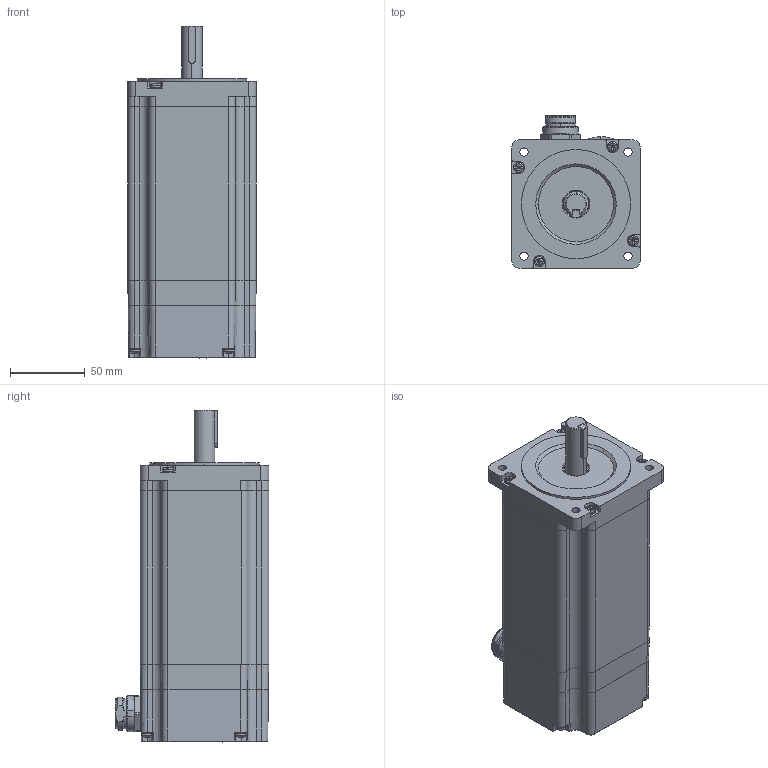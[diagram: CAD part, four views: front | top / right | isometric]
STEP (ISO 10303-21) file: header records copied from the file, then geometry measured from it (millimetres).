
FILE_DESCRIPTION (( 'STEP AP214' ), '1' );
FILE_NAME ('M86SH156-T-C.STEP', '2025-12-20T09:51:21', ( '' ), ( '' ), 'SwSTEP 2.0', 'SolidWorks 2019', '' );
FILE_SCHEMA (( 'AUTOMOTIVE_DESIGN' ));
Length unit declared in the file: millimetre
Products named in the file (1): M86SH156-T-C
Bounding box: 85.9 x 102.59 x 222 mm (x, y, z)
Volume: 766009.2 mm3; surface area: 210076.9 mm2
Topology: 32 solids, 32 shells, 1601 faces, 4008 edges, 2567 vertices
Faces by surface type: plane 685, cylinder 403, cone 202, bspline 179, torus 116, sphere 16
Entity records: 74250 total; most frequent: CARTESIAN_POINT 18232, ORIENTED_EDGE 7984, DIRECTION 7784, EDGE_CURVE 3992, AXIS2_PLACEMENT_3D 2921, VERTEX_POINT 2567, VECTOR 1942, LINE 1942
